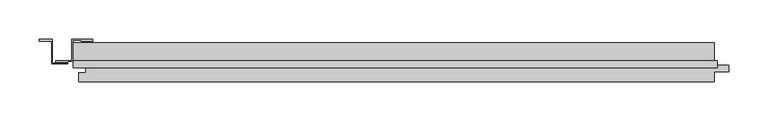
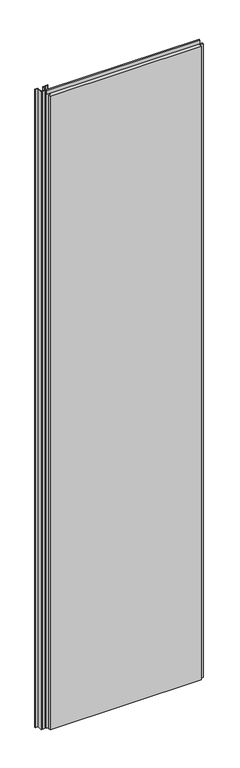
"""IFC4 building model written with IfcOpenShell, lengths in millimetres: plate geometry, Trimo_Qbiss Screen_Normal Panel-VERTICAL : HR - FB."""

from ifc_helpers import new_model, si_unit, frame, origin, place, context, project, spatial, polyline, outline, extrude, source, transform, mapped, element, save


def plate_3a42f666(model_context):
    return source(origin(), model_context, "Body", "SweptSolid", [
        extrude(outline(polyline([(-361.0, 127.6), (-376.0, 127.6), (-376.0, 128.4), (-361.8, 128.4), (-361.8, 129.2), (-387.0, 129.2), (-387.0, 102.4), (-407.2, 102.4), (-407.2, 101.6), (-393.0, 101.6), (-393.0, 100.8), (-408.0, 100.8), (-408.0, 103.2), (-387.8, 103.2), (-387.8, 130.0), (-361.0, 130.0), (-361.0, 127.6)])), frame((0.0, 0.0, 12.5), z_axis=(0.0, 0.0, 1.0), x_axis=(1.0, 0.0, 0.0)), (0.0, 0.0, 1.0), 3600.0),
        extrude(outline(polyline([(-393.0, 100.0), (-393.0, 99.2), (-413.6, 99.2), (-413.6, 129.2), (-428.2, 129.2), (-428.2, 128.4), (-414.0, 128.4), (-414.0, 127.6), (-429.0, 127.6), (-429.0, 130.0), (-412.8, 130.0), (-412.8, 100.0), (-393.0, 100.0)])), frame((0.0, 0.0, 12.5), z_axis=(0.0, 0.0, 1.0), x_axis=(1.0, 0.0, 0.0)), (0.0, 0.0, 1.0), 3600.0),
        extrude(outline(polyline([(-386.0, 93.9), (-386.0, 102.6), (431.0, 102.6), (431.0, 93.9), (-386.0, 93.9)])), frame((0.0, 0.0, 3590.5), z_axis=(0.0, 0.0, 1.0), x_axis=(1.0, 0.0, 0.0)), (0.0, 0.0, 1.0), 19.0),
        extrude(outline(polyline([(427.0, 97.0), (445.5, 97.0), (445.5, 89.0), (427.0, 89.0), (427.0, 76.0), (-379.0, 76.0), (-379.0, 88.0), (-370.5, 88.0), (-370.5, 98.0), (-386.0, 98.0), (-386.0, 126.0), (427.0, 126.0), (427.0, 97.0)])), frame((0.0, 0.0, 12.5), z_axis=(0.0, 0.0, 1.0), x_axis=(1.0, 0.0, 0.0)), (0.0, 0.0, 1.0), 3575.0),
    ])


if __name__ == "__main__":
    model = new_model("IFC4")
    model_context = context("Model", 3, world=origin())
    ifc_project = project(units=[si_unit("LENGTHUNIT", "METRE", prefix="MILLI")], contexts=[model_context])
    site = spatial("IfcSite", under=ifc_project)
    building = spatial("IfcBuilding", under=site)
    placement = place(None, origin())
    plate_shape = plate_3a42f666(model_context)
    element("IfcPlate", 1, ObjectType="Trimo_Qbiss Screen_Normal Panel-VERTICAL : HR - FB", at=placement, inside=building, context=model_context, shape_type="MappedRepresentation", body=[
        mapped(plate_shape, transform((0.0, 0.0, 0.0), x_axis=(1.0, 0.0, 0.0), y_axis=(0.0, 1.0, 0.0), z_axis=(0.0, 0.0, 1.0))),
    ])
    save(model, "model.ifc")
